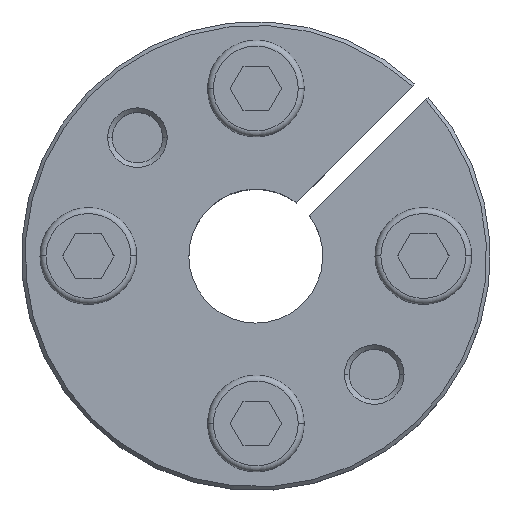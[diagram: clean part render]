
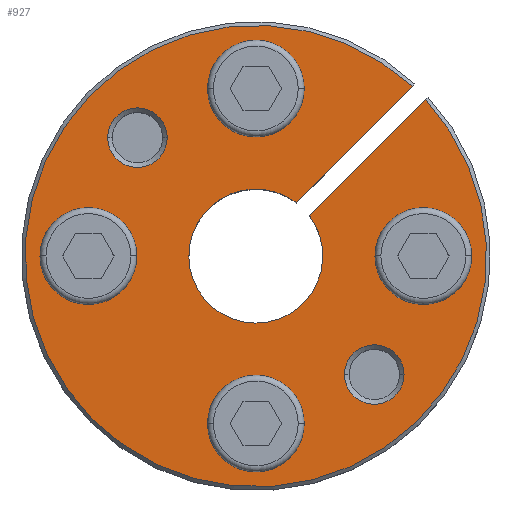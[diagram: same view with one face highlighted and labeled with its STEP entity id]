
A CAD part, top view. The second image highlights one B-rep face of the part: STEP entity #927.
In plain terms, the highlighted planar face has unit normal (0, 0, 1).
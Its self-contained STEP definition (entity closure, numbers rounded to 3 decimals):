
#52=CARTESIAN_POINT('',(0.,0.,9.));
#53=DIRECTION('',(0.,0.,1.));
#54=DIRECTION('',(0.678,0.735,0.));
#55=AXIS2_PLACEMENT_3D('',#52,#53,#54);
#237=CARTESIAN_POINT('',(22.5,0.,9.));
#238=DIRECTION('',(0.,0.,1.));
#239=DIRECTION('',(1.,0.,0.));
#240=AXIS2_PLACEMENT_3D('',#237,#238,#239);
#245=CARTESIAN_POINT('',(22.5,0.,9.));
#246=DIRECTION('',(0.,0.,1.));
#247=DIRECTION('',(-1.,0.,0.));
#248=AXIS2_PLACEMENT_3D('',#245,#246,#247);
#253=CARTESIAN_POINT('',(0.,22.5,9.));
#254=DIRECTION('',(0.,0.,1.));
#255=DIRECTION('',(1.,0.,0.));
#256=AXIS2_PLACEMENT_3D('',#253,#254,#255);
#261=CARTESIAN_POINT('',(0.,22.5,9.));
#262=DIRECTION('',(0.,0.,1.));
#263=DIRECTION('',(-1.,0.,0.));
#264=AXIS2_PLACEMENT_3D('',#261,#262,#263);
#269=CARTESIAN_POINT('',(-22.5,0.,9.));
#270=DIRECTION('',(0.,0.,1.));
#271=DIRECTION('',(1.,0.,0.));
#272=AXIS2_PLACEMENT_3D('',#269,#270,#271);
#277=CARTESIAN_POINT('',(-22.5,0.,9.));
#278=DIRECTION('',(0.,0.,1.));
#279=DIRECTION('',(-1.,0.,0.));
#280=AXIS2_PLACEMENT_3D('',#277,#278,#279);
#285=CARTESIAN_POINT('',(0.,-22.5,9.));
#286=DIRECTION('',(0.,0.,1.));
#287=DIRECTION('',(1.,0.,0.));
#288=AXIS2_PLACEMENT_3D('',#285,#286,#287);
#293=CARTESIAN_POINT('',(0.,-22.5,9.));
#294=DIRECTION('',(0.,0.,1.));
#295=DIRECTION('',(-1.,0.,0.));
#296=AXIS2_PLACEMENT_3D('',#293,#294,#295);
#301=CARTESIAN_POINT('',(-15.91,15.91,9.));
#302=DIRECTION('',(0.,0.,-1.));
#303=DIRECTION('',(-1.,0.,0.));
#304=AXIS2_PLACEMENT_3D('',#301,#302,#303);
#309=CARTESIAN_POINT('',(-15.91,15.91,9.));
#310=DIRECTION('',(0.,0.,-1.));
#311=DIRECTION('',(1.,0.,0.));
#312=AXIS2_PLACEMENT_3D('',#309,#310,#311);
#317=CARTESIAN_POINT('',(15.91,-15.91,9.));
#318=DIRECTION('',(0.,0.,-1.));
#319=DIRECTION('',(-1.,0.,0.));
#320=AXIS2_PLACEMENT_3D('',#317,#318,#319);
#325=CARTESIAN_POINT('',(15.91,-15.91,9.));
#326=DIRECTION('',(0.,0.,-1.));
#327=DIRECTION('',(1.,0.,0.));
#328=AXIS2_PLACEMENT_3D('',#325,#326,#327);
#333=DIRECTION('',(0.707,0.707,0.));
#334=VECTOR('',#333,22.062);
#335=CARTESIAN_POINT('',(7.186,5.418,9.));
#336=LINE('',#335,#334);
#340=DIRECTION('',(-0.707,-0.707,0.));
#341=VECTOR('',#340,22.062);
#342=CARTESIAN_POINT('',(21.019,22.786,9.));
#343=LINE('',#342,#341);
#558=CARTESIAN_POINT('',(0.,0.,9.));
#559=DIRECTION('',(0.,0.,-1.));
#560=DIRECTION('',(0.798,0.602,0.));
#561=AXIS2_PLACEMENT_3D('',#558,#559,#560);
#624=CARTESIAN_POINT('',(26.75,0.,9.));
#625=CARTESIAN_POINT('',(18.25,0.,9.));
#626=VERTEX_POINT('',#624);
#627=VERTEX_POINT('',#625);
#632=CARTESIAN_POINT('',(4.25,22.5,9.));
#633=CARTESIAN_POINT('',(-4.25,22.5,9.));
#634=VERTEX_POINT('',#632);
#635=VERTEX_POINT('',#633);
#640=CARTESIAN_POINT('',(-18.25,0.,9.));
#641=CARTESIAN_POINT('',(-26.75,0.,9.));
#642=VERTEX_POINT('',#640);
#643=VERTEX_POINT('',#641);
#648=CARTESIAN_POINT('',(4.25,-22.5,9.));
#649=CARTESIAN_POINT('',(-4.25,-22.5,9.));
#650=VERTEX_POINT('',#648);
#651=VERTEX_POINT('',#649);
#656=CARTESIAN_POINT('',(-19.91,15.91,9.));
#657=CARTESIAN_POINT('',(-11.91,15.91,9.));
#658=VERTEX_POINT('',#656);
#659=VERTEX_POINT('',#657);
#672=CARTESIAN_POINT('',(11.91,-15.91,9.));
#673=CARTESIAN_POINT('',(19.91,-15.91,9.));
#674=VERTEX_POINT('',#672);
#675=VERTEX_POINT('',#673);
#688=CARTESIAN_POINT('',(7.186,5.418,9.));
#689=CARTESIAN_POINT('',(22.786,21.019,9.));
#690=VERTEX_POINT('',#688);
#691=VERTEX_POINT('',#689);
#692=CARTESIAN_POINT('',(21.019,22.786,9.));
#693=CARTESIAN_POINT('',(5.418,7.186,9.));
#694=VERTEX_POINT('',#692);
#695=VERTEX_POINT('',#693);
#878=CARTESIAN_POINT('',(0.,0.,9.));
#879=DIRECTION('',(0.,0.,-1.));
#880=DIRECTION('',(0.,-1.,0.));
#881=AXIS2_PLACEMENT_3D('',#878,#879,#880);
#882=PLANE('',#881);
#884=ORIENTED_EDGE('',*,*,#883,.T.);
#885=ORIENTED_EDGE('',*,*,#727,.F.);
#887=ORIENTED_EDGE('',*,*,#886,.T.);
#889=ORIENTED_EDGE('',*,*,#888,.F.);
#890=EDGE_LOOP('',(#884,#885,#887,#889));
#891=FACE_OUTER_BOUND('',#890,.F.);
#892=ORIENTED_EDGE('',*,*,#868,.T.);
#894=ORIENTED_EDGE('',*,*,#893,.T.);
#895=EDGE_LOOP('',(#892,#894));
#896=FACE_BOUND('',#895,.F.);
#898=ORIENTED_EDGE('',*,*,#897,.T.);
#900=ORIENTED_EDGE('',*,*,#899,.T.);
#901=EDGE_LOOP('',(#898,#900));
#902=FACE_BOUND('',#901,.F.);
#904=ORIENTED_EDGE('',*,*,#903,.T.);
#906=ORIENTED_EDGE('',*,*,#905,.T.);
#907=EDGE_LOOP('',(#904,#906));
#908=FACE_BOUND('',#907,.F.);
#910=ORIENTED_EDGE('',*,*,#909,.T.);
#912=ORIENTED_EDGE('',*,*,#911,.T.);
#913=EDGE_LOOP('',(#910,#912));
#914=FACE_BOUND('',#913,.F.);
#916=ORIENTED_EDGE('',*,*,#915,.F.);
#918=ORIENTED_EDGE('',*,*,#917,.F.);
#919=EDGE_LOOP('',(#916,#918));
#920=FACE_BOUND('',#919,.F.);
#922=ORIENTED_EDGE('',*,*,#921,.F.);
#924=ORIENTED_EDGE('',*,*,#923,.F.);
#925=EDGE_LOOP('',(#922,#924));
#926=FACE_BOUND('',#925,.F.);
#927=ADVANCED_FACE('',(#891,#896,#902,#908,#914,#920,#926),#882,.F.);
#56=CIRCLE('',#55,31.);
#241=CIRCLE('',#240,4.25);
#249=CIRCLE('',#248,4.25);
#257=CIRCLE('',#256,4.25);
#265=CIRCLE('',#264,4.25);
#273=CIRCLE('',#272,4.25);
#281=CIRCLE('',#280,4.25);
#289=CIRCLE('',#288,4.25);
#297=CIRCLE('',#296,4.25);
#305=CIRCLE('',#304,4.);
#313=CIRCLE('',#312,4.);
#321=CIRCLE('',#320,4.);
#329=CIRCLE('',#328,4.);
#562=CIRCLE('',#561,9.);
#727=EDGE_CURVE('',#694,#691,#56,.T.);
#868=EDGE_CURVE('',#626,#627,#241,.T.);
#883=EDGE_CURVE('',#690,#691,#336,.T.);
#886=EDGE_CURVE('',#694,#695,#343,.T.);
#888=EDGE_CURVE('',#690,#695,#562,.T.);
#893=EDGE_CURVE('',#627,#626,#249,.T.);
#897=EDGE_CURVE('',#634,#635,#257,.T.);
#899=EDGE_CURVE('',#635,#634,#265,.T.);
#903=EDGE_CURVE('',#642,#643,#273,.T.);
#905=EDGE_CURVE('',#643,#642,#281,.T.);
#909=EDGE_CURVE('',#650,#651,#289,.T.);
#911=EDGE_CURVE('',#651,#650,#297,.T.);
#915=EDGE_CURVE('',#658,#659,#305,.T.);
#917=EDGE_CURVE('',#659,#658,#313,.T.);
#921=EDGE_CURVE('',#674,#675,#321,.T.);
#923=EDGE_CURVE('',#675,#674,#329,.T.);
